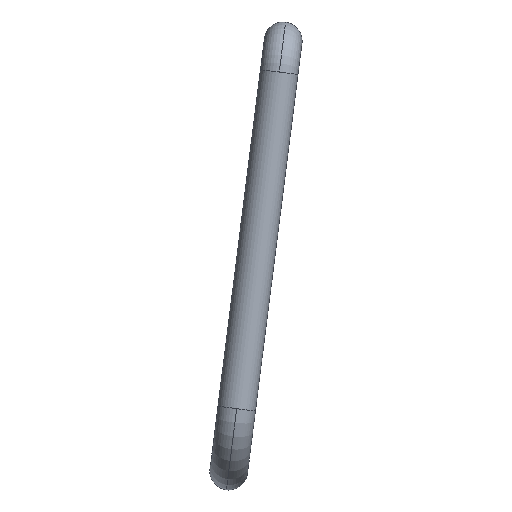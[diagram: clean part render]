
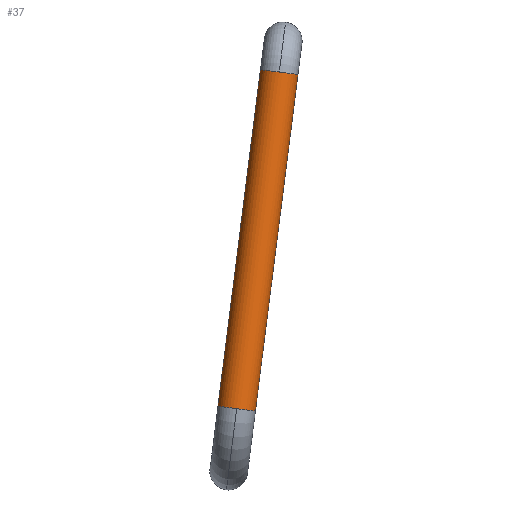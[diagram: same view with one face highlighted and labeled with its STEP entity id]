
A CAD part, front view. The second image highlights one B-rep face of the part: STEP entity #37.
In plain terms, the highlighted cylindrical face has radius 1.5 mm (diameter 3 mm), a partial arc.
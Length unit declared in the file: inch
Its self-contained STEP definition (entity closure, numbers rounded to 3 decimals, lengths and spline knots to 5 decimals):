
#1 = CYLINDRICAL_SURFACE ( 'NONE', #594, 0.05906 ) ;
#2 = EDGE_CURVE ( 'NONE', #602, #431, #509, .T. ) ;
#20 = CIRCLE ( 'NONE', #142, 0.05906 ) ;
#37 = ADVANCED_FACE ( 'NONE', ( #606 ), #1, .T. ) ;
#46 = CARTESIAN_POINT ( 'NONE',  ( -1.91972, -0.41339, 0.57247 ) ) ;
#53 = LINE ( 'NONE', #489, #686 ) ;
#96 = DIRECTION ( 'NONE',  ( -0.992, 0., 0.125 ) ) ;
#106 = EDGE_LOOP ( 'NONE', ( #468, #444, #341, #276, #113, #235 ) ) ;
#113 = ORIENTED_EDGE ( 'NONE', *, *, #671, .T. ) ;
#130 = AXIS2_PLACEMENT_3D ( 'NONE', #206, #633, #96 ) ;
#142 = AXIS2_PLACEMENT_3D ( 'NONE', #46, #267, #688 ) ;
#163 = EDGE_CURVE ( 'NONE', #593, #176, #585, .T. ) ;
#176 = VERTEX_POINT ( 'NONE', #418 ) ;
#177 = EDGE_CURVE ( 'NONE', #593, #602, #201, .T. ) ;
#195 = CARTESIAN_POINT ( 'NONE',  ( -1.91972, -0.41339, 0.57247 ) ) ;
#201 = CIRCLE ( 'NONE', #130, 0.05906 ) ;
#206 = CARTESIAN_POINT ( 'NONE',  ( -2.0528, -0.41339, -0.47973 ) ) ;
#207 = AXIS2_PLACEMENT_3D ( 'NONE', #640, #538, #648 ) ;
#226 = VERTEX_POINT ( 'NONE', #465 ) ;
#232 = CARTESIAN_POINT ( 'NONE',  ( -2.0528, -0.41339, -0.47973 ) ) ;
#235 = ORIENTED_EDGE ( 'NONE', *, *, #376, .T. ) ;
#250 = CARTESIAN_POINT ( 'NONE',  ( -2.0528, -0.47244, -0.47973 ) ) ;
#267 = DIRECTION ( 'NONE',  ( -0.125, 0., -0.992 ) ) ;
#276 = ORIENTED_EDGE ( 'NONE', *, *, #163, .T. ) ;
#288 = CIRCLE ( 'NONE', #362, 0.05906 ) ;
#297 = DIRECTION ( 'NONE',  ( -0.124, -0.992, 0.016 ) ) ;
#340 = DIRECTION ( 'NONE',  ( 0.992, 0., -0.125 ) ) ;
#341 = ORIENTED_EDGE ( 'NONE', *, *, #177, .F. ) ;
#343 = DIRECTION ( 'NONE',  ( 0.125, 0., 0.992 ) ) ;
#362 = AXIS2_PLACEMENT_3D ( 'NONE', #195, #620, #297 ) ;
#366 = EDGE_CURVE ( 'NONE', #431, #598, #53, .T. ) ;
#376 = EDGE_CURVE ( 'NONE', #226, #598, #20, .T. ) ;
#418 = CARTESIAN_POINT ( 'NONE',  ( -1.86113, -0.41339, 0.56506 ) ) ;
#430 = DIRECTION ( 'NONE',  ( 0.125, 0., 0.992 ) ) ;
#431 = VERTEX_POINT ( 'NONE', #563 ) ;
#444 = ORIENTED_EDGE ( 'NONE', *, *, #2, .F. ) ;
#465 = CARTESIAN_POINT ( 'NONE',  ( -1.91972, -0.47244, 0.57247 ) ) ;
#468 = ORIENTED_EDGE ( 'NONE', *, *, #366, .F. ) ;
#489 = CARTESIAN_POINT ( 'NONE',  ( -2.11139, -0.41339, -0.47232 ) ) ;
#509 = CIRCLE ( 'NONE', #207, 0.05906 ) ;
#536 = CARTESIAN_POINT ( 'NONE',  ( -1.99421, -0.41339, -0.48714 ) ) ;
#538 = DIRECTION ( 'NONE',  ( -0.125, 0., -0.992 ) ) ;
#563 = CARTESIAN_POINT ( 'NONE',  ( -2.11139, -0.41339, -0.47232 ) ) ;
#585 = LINE ( 'NONE', #639, #698 ) ;
#593 = VERTEX_POINT ( 'NONE', #536 ) ;
#594 = AXIS2_PLACEMENT_3D ( 'NONE', #232, #343, #340 ) ;
#598 = VERTEX_POINT ( 'NONE', #668 ) ;
#602 = VERTEX_POINT ( 'NONE', #250 ) ;
#606 = FACE_OUTER_BOUND ( 'NONE', #106, .T. ) ;
#620 = DIRECTION ( 'NONE',  ( -0.125, 0., -0.992 ) ) ;
#633 = DIRECTION ( 'NONE',  ( -0.125, 0., -0.992 ) ) ;
#634 = DIRECTION ( 'NONE',  ( 0.125, 0., 0.992 ) ) ;
#639 = CARTESIAN_POINT ( 'NONE',  ( -1.99421, -0.41339, -0.48714 ) ) ;
#640 = CARTESIAN_POINT ( 'NONE',  ( -2.0528, -0.41339, -0.47973 ) ) ;
#648 = DIRECTION ( 'NONE',  ( -0.992, 0., 0.125 ) ) ;
#668 = CARTESIAN_POINT ( 'NONE',  ( -1.9783, -0.41339, 0.57988 ) ) ;
#671 = EDGE_CURVE ( 'NONE', #176, #226, #288, .T. ) ;
#686 = VECTOR ( 'NONE', #430, 39.37008 ) ;
#688 = DIRECTION ( 'NONE',  ( -0.124, -0.992, 0.016 ) ) ;
#698 = VECTOR ( 'NONE', #634, 39.37008 ) ;
